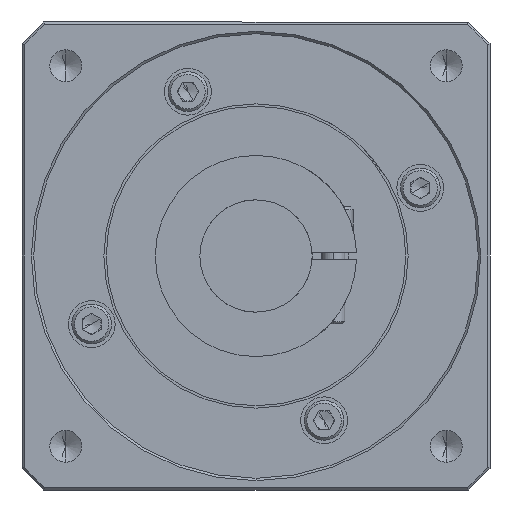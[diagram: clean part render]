
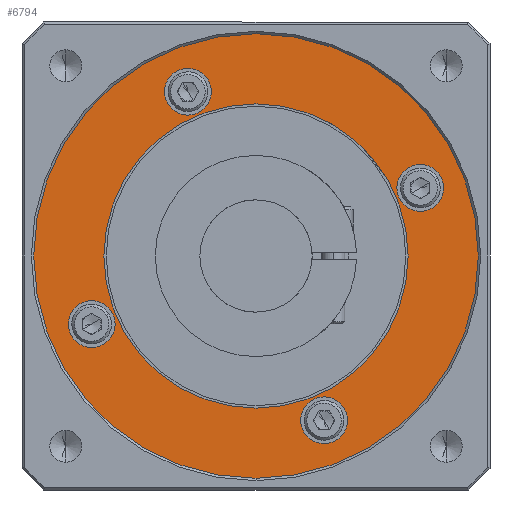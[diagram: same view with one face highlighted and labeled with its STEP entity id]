
A CAD part, front view. The second image highlights one B-rep face of the part: STEP entity #6794.
In plain terms, the highlighted planar face has unit normal (0, -1, 0).
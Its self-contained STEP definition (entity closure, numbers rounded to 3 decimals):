
#334 = CARTESIAN_POINT ( 'NONE',  ( 35.107, 10., 14.542 ) ) ;
#335 = CIRCLE ( 'NONE', #342, 5. ) ;
#340 = DIRECTION ( 'NONE',  ( 0., 0., -1. ) ) ;
#341 = DIRECTION ( 'NONE',  ( 0., -1., 0. ) ) ;
#342 = AXIS2_PLACEMENT_3D ( 'NONE', #334, #341, #340 ) ;
#532 = CARTESIAN_POINT ( 'NONE',  ( -14.542, 10., 35.107 ) ) ;
#533 = CIRCLE ( 'NONE', #537, 5. ) ;
#537 = AXIS2_PLACEMENT_3D ( 'NONE', #532, #538, #539 ) ;
#538 = DIRECTION ( 'NONE',  ( 0., -1., 0. ) ) ;
#539 = DIRECTION ( 'NONE',  ( 0., 0., -1. ) ) ;
#1998 = CARTESIAN_POINT ( 'NONE',  ( -14.542, 10., 30.107 ) ) ;
#2490 = DIRECTION ( 'NONE',  ( 0., 0., -1. ) ) ;
#2492 = AXIS2_PLACEMENT_3D ( 'NONE', #2555, #2594, #2490 ) ;
#2493 = CIRCLE ( 'NONE', #2492, 5. ) ;
#2555 = CARTESIAN_POINT ( 'NONE',  ( -14.542, 10., 35.107 ) ) ;
#2556 = CARTESIAN_POINT ( 'NONE',  ( -35.107, 10., -9.542 ) ) ;
#2594 = DIRECTION ( 'NONE',  ( 0., -1., 0. ) ) ;
#3097 = PLANE ( 'NONE',  #3109 ) ;
#3100 = DIRECTION ( 'NONE',  ( 0., 0., -1. ) ) ;
#3109 = AXIS2_PLACEMENT_3D ( 'NONE', #3113, #3112, #3100 ) ;
#3112 = DIRECTION ( 'NONE',  ( 0., -1., 0. ) ) ;
#3113 = CARTESIAN_POINT ( 'NONE',  ( -47.5, 10., 0. ) ) ;
#3131 = CIRCLE ( 'NONE', #3140, 47.5 ) ;
#3139 = DIRECTION ( 'NONE',  ( 0., 1., 0. ) ) ;
#3140 = AXIS2_PLACEMENT_3D ( 'NONE', #3142, #3139, #3141 ) ;
#3141 = DIRECTION ( 'NONE',  ( 0., 0., 1. ) ) ;
#3142 = CARTESIAN_POINT ( 'NONE',  ( 0., 10., 0. ) ) ;
#3149 = CIRCLE ( 'NONE', #3158, 5. ) ;
#3155 = CARTESIAN_POINT ( 'NONE',  ( 14.542, 10., -35.107 ) ) ;
#3156 = DIRECTION ( 'NONE',  ( 0., 0., -1. ) ) ;
#3157 = DIRECTION ( 'NONE',  ( 0., -1., 0. ) ) ;
#3158 = AXIS2_PLACEMENT_3D ( 'NONE', #3155, #3157, #3156 ) ;
#3221 = CIRCLE ( 'NONE', #3248, 32.5 ) ;
#3248 = AXIS2_PLACEMENT_3D ( 'NONE', #3253, #3252, #3257 ) ;
#3252 = DIRECTION ( 'NONE',  ( 0., 1., 0. ) ) ;
#3253 = CARTESIAN_POINT ( 'NONE',  ( 0., 10., 0. ) ) ;
#3257 = DIRECTION ( 'NONE',  ( 0., 0., 1. ) ) ;
#3263 = FACE_BOUND ( 'NONE', #6855, .T. ) ;
#3317 = FACE_BOUND ( 'NONE', #6886, .T. ) ;
#3320 = FACE_BOUND ( 'NONE', #7142, .T. ) ;
#3332 = FACE_OUTER_BOUND ( 'NONE', #6822, .T. ) ;
#3334 = FACE_BOUND ( 'NONE', #6805, .T. ) ;
#3351 = FACE_BOUND ( 'NONE', #6852, .T. ) ;
#3381 = VERTEX_POINT ( 'NONE', #1998 ) ;
#3395 = EDGE_CURVE ( 'NONE', #3496, #3381, #2493, .T. ) ;
#3427 = VERTEX_POINT ( 'NONE', #2556 ) ;
#3452 = EDGE_CURVE ( 'NONE', #3427, #3479, #11438, .T. ) ;
#3479 = VERTEX_POINT ( 'NONE', #11456 ) ;
#3496 = VERTEX_POINT ( 'NONE', #11581 ) ;
#3507 = VERTEX_POINT ( 'NONE', #11564 ) ;
#3511 = EDGE_CURVE ( 'NONE', #3507, #3579, #11441, .T. ) ;
#3524 = VERTEX_POINT ( 'NONE', #9109 ) ;
#3525 = EDGE_CURVE ( 'NONE', #3556, #3524, #9071, .T. ) ;
#3556 = VERTEX_POINT ( 'NONE', #9532 ) ;
#3579 = VERTEX_POINT ( 'NONE', #9547 ) ;
#3920 = VERTEX_POINT ( 'NONE', #10877 ) ;
#4036 = VERTEX_POINT ( 'NONE', #10613 ) ;
#4038 = EDGE_CURVE ( 'NONE', #4036, #3920, #10594, .T. ) ;
#4097 = VERTEX_POINT ( 'NONE', #9997 ) ;
#4238 = VERTEX_POINT ( 'NONE', #11057 ) ;
#4277 = EDGE_CURVE ( 'NONE', #4238, #4097, #9647, .T. ) ;
#6794 = ADVANCED_FACE ( 'NONE', ( #3334, #3320, #3317, #3351, #3263, #3332 ), #3097, .T. ) ;
#6799 = EDGE_CURVE ( 'NONE', #4097, #4238, #3131, .T. ) ;
#6801 = ORIENTED_EDGE ( 'NONE', *, *, #3452, .F. ) ;
#6804 = ORIENTED_EDGE ( 'NONE', *, *, #3395, .F. ) ;
#6805 = EDGE_LOOP ( 'NONE', ( #6801, #6824 ) ) ;
#6808 = ORIENTED_EDGE ( 'NONE', *, *, #6809, .F. ) ;
#6809 = EDGE_CURVE ( 'NONE', #3579, #3507, #3149, .T. ) ;
#6814 = ORIENTED_EDGE ( 'NONE', *, *, #6848, .F. ) ;
#6815 = ORIENTED_EDGE ( 'NONE', *, *, #3511, .F. ) ;
#6822 = EDGE_LOOP ( 'NONE', ( #6831, #6828 ) ) ;
#6824 = ORIENTED_EDGE ( 'NONE', *, *, #7116, .F. ) ;
#6828 = ORIENTED_EDGE ( 'NONE', *, *, #4277, .F. ) ;
#6829 = EDGE_CURVE ( 'NONE', #3920, #4036, #3221, .T. ) ;
#6830 = ORIENTED_EDGE ( 'NONE', *, *, #4038, .T. ) ;
#6831 = ORIENTED_EDGE ( 'NONE', *, *, #6799, .F. ) ;
#6832 = ORIENTED_EDGE ( 'NONE', *, *, #3525, .F. ) ;
#6844 = EDGE_CURVE ( 'NONE', #3381, #3496, #533, .T. ) ;
#6846 = ORIENTED_EDGE ( 'NONE', *, *, #6829, .T. ) ;
#6848 = EDGE_CURVE ( 'NONE', #3524, #3556, #335, .T. ) ;
#6852 = EDGE_LOOP ( 'NONE', ( #6815, #6808 ) ) ;
#6855 = EDGE_LOOP ( 'NONE', ( #6846, #6830 ) ) ;
#6874 = ORIENTED_EDGE ( 'NONE', *, *, #6844, .F. ) ;
#6886 = EDGE_LOOP ( 'NONE', ( #6832, #6814 ) ) ;
#7116 = EDGE_CURVE ( 'NONE', #3479, #3427, #7378, .T. ) ;
#7142 = EDGE_LOOP ( 'NONE', ( #6804, #6874 ) ) ;
#7378 = CIRCLE ( 'NONE', #7389, 5. ) ;
#7379 = DIRECTION ( 'NONE',  ( 0., 0., -1. ) ) ;
#7388 = DIRECTION ( 'NONE',  ( 0., -1., 0. ) ) ;
#7389 = AXIS2_PLACEMENT_3D ( 'NONE', #7397, #7388, #7379 ) ;
#7397 = CARTESIAN_POINT ( 'NONE',  ( -35.107, 10., -14.542 ) ) ;
#9052 = DIRECTION ( 'NONE',  ( 0., 0., -1. ) ) ;
#9071 = CIRCLE ( 'NONE', #9112, 5. ) ;
#9087 = DIRECTION ( 'NONE',  ( 0., 0., -1. ) ) ;
#9109 = CARTESIAN_POINT ( 'NONE',  ( 35.107, 10., 9.542 ) ) ;
#9110 = DIRECTION ( 'NONE',  ( 0., -1., 0. ) ) ;
#9111 = CARTESIAN_POINT ( 'NONE',  ( 35.107, 10., 14.542 ) ) ;
#9112 = AXIS2_PLACEMENT_3D ( 'NONE', #9111, #9110, #9087 ) ;
#9532 = CARTESIAN_POINT ( 'NONE',  ( 35.107, 10., 19.542 ) ) ;
#9547 = CARTESIAN_POINT ( 'NONE',  ( 14.542, 10., -40.107 ) ) ;
#9647 = CIRCLE ( 'NONE', #10018, 47.5 ) ;
#9997 = CARTESIAN_POINT ( 'NONE',  ( 0., 10., 47.5 ) ) ;
#10018 = AXIS2_PLACEMENT_3D ( 'NONE', #10029, #10026, #10190 ) ;
#10026 = DIRECTION ( 'NONE',  ( 0., 1., 0. ) ) ;
#10029 = CARTESIAN_POINT ( 'NONE',  ( 0., 10., 0. ) ) ;
#10190 = DIRECTION ( 'NONE',  ( 0., 0., 1. ) ) ;
#10580 = CARTESIAN_POINT ( 'NONE',  ( 0., 10., 0. ) ) ;
#10594 = CIRCLE ( 'NONE', #10671, 32.5 ) ;
#10613 = CARTESIAN_POINT ( 'NONE',  ( 0., 10., -32.5 ) ) ;
#10662 = DIRECTION ( 'NONE',  ( 0., 0., 1. ) ) ;
#10664 = DIRECTION ( 'NONE',  ( 0., 1., 0. ) ) ;
#10671 = AXIS2_PLACEMENT_3D ( 'NONE', #10580, #10664, #10662 ) ;
#10877 = CARTESIAN_POINT ( 'NONE',  ( 0., 10., 32.5 ) ) ;
#11057 = CARTESIAN_POINT ( 'NONE',  ( 0., 10., -47.5 ) ) ;
#11370 = AXIS2_PLACEMENT_3D ( 'NONE', #11447, #11399, #11516 ) ;
#11371 = DIRECTION ( 'NONE',  ( 0., -1., 0. ) ) ;
#11380 = CARTESIAN_POINT ( 'NONE',  ( 14.542, 10., -35.107 ) ) ;
#11399 = DIRECTION ( 'NONE',  ( 0., -1., 0. ) ) ;
#11425 = AXIS2_PLACEMENT_3D ( 'NONE', #11380, #11371, #9052 ) ;
#11438 = CIRCLE ( 'NONE', #11370, 5. ) ;
#11441 = CIRCLE ( 'NONE', #11425, 5. ) ;
#11447 = CARTESIAN_POINT ( 'NONE',  ( -35.107, 10., -14.542 ) ) ;
#11456 = CARTESIAN_POINT ( 'NONE',  ( -35.107, 10., -19.542 ) ) ;
#11516 = DIRECTION ( 'NONE',  ( 0., 0., -1. ) ) ;
#11564 = CARTESIAN_POINT ( 'NONE',  ( 14.542, 10., -30.107 ) ) ;
#11581 = CARTESIAN_POINT ( 'NONE',  ( -14.542, 10., 40.107 ) ) ;
